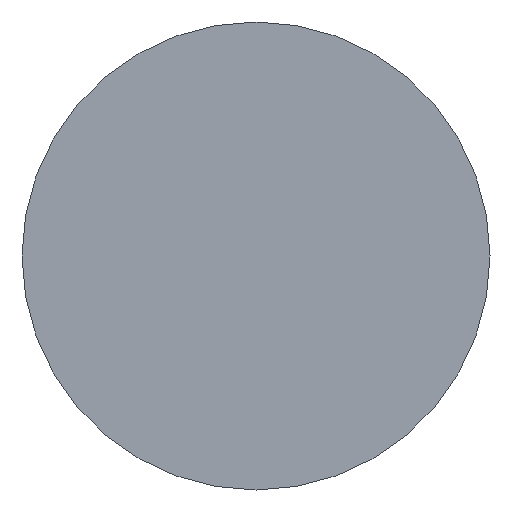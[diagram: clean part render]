
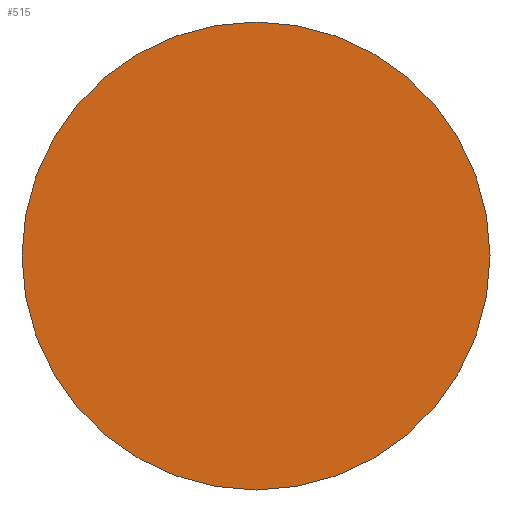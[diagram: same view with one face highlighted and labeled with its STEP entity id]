
A CAD part, front view. The second image highlights one B-rep face of the part: STEP entity #515.
In plain terms, the highlighted planar face has unit normal (0, -1, 0).
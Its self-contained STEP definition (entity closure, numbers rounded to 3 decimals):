
#33 = EDGE_CURVE ( 'NONE', #1291, #170, #325, .T. ) ;
#111 = DIRECTION ( 'NONE',  ( 0., 1., 0. ) ) ;
#170 = VERTEX_POINT ( 'NONE', #1347 ) ;
#246 = ORIENTED_EDGE ( 'NONE', *, *, #983, .F. ) ;
#288 = AXIS2_PLACEMENT_3D ( 'NONE', #945, #848, #823 ) ;
#325 = CIRCLE ( 'NONE', #809, 18.9 ) ;
#336 = CARTESIAN_POINT ( 'NONE',  ( 0., 0., 0. ) ) ;
#479 = CIRCLE ( 'NONE', #288, 18.9 ) ;
#515 = ADVANCED_FACE ( 'NONE', ( #1518 ), #979, .T. ) ;
#552 = EDGE_LOOP ( 'NONE', ( #246, #1424 ) ) ;
#809 = AXIS2_PLACEMENT_3D ( 'NONE', #1607, #111, #968 ) ;
#823 = DIRECTION ( 'NONE',  ( -1., 0., 0. ) ) ;
#848 = DIRECTION ( 'NONE',  ( 0., 1., 0. ) ) ;
#945 = CARTESIAN_POINT ( 'NONE',  ( 0., 0., 0. ) ) ;
#968 = DIRECTION ( 'NONE',  ( -1., 0., 0. ) ) ;
#979 = PLANE ( 'NONE',  #1019 ) ;
#983 = EDGE_CURVE ( 'NONE', #170, #1291, #479, .T. ) ;
#1019 = AXIS2_PLACEMENT_3D ( 'NONE', #336, #1208, #1339 ) ;
#1208 = DIRECTION ( 'NONE',  ( 0., -1., 0. ) ) ;
#1291 = VERTEX_POINT ( 'NONE', #1423 ) ;
#1339 = DIRECTION ( 'NONE',  ( 1., 0., 0. ) ) ;
#1347 = CARTESIAN_POINT ( 'NONE',  ( -18.9, 0., 0. ) ) ;
#1423 = CARTESIAN_POINT ( 'NONE',  ( 18.9, 0., 0. ) ) ;
#1424 = ORIENTED_EDGE ( 'NONE', *, *, #33, .F. ) ;
#1518 = FACE_OUTER_BOUND ( 'NONE', #552, .T. ) ;
#1607 = CARTESIAN_POINT ( 'NONE',  ( 0., 0., 0. ) ) ;
